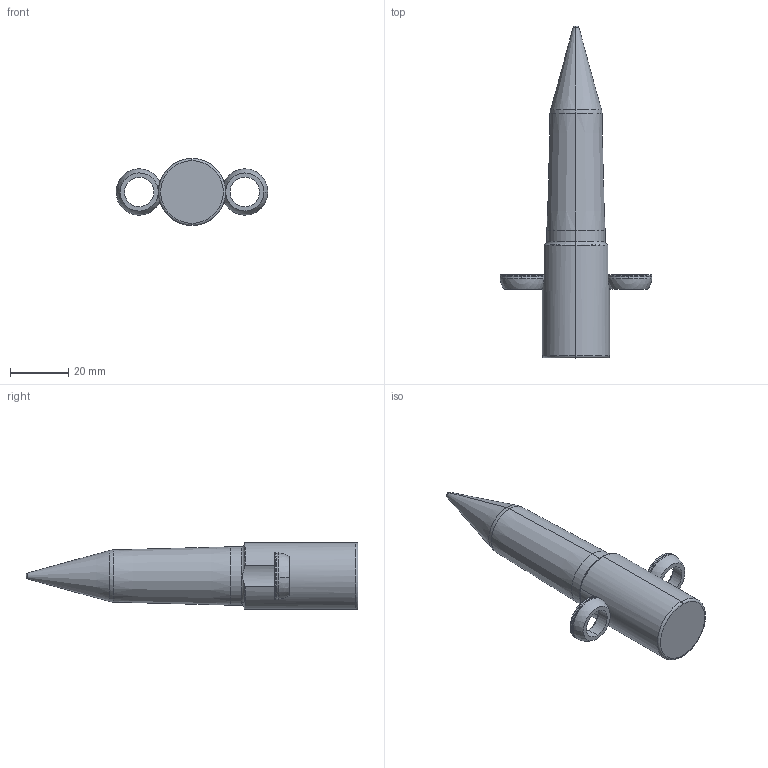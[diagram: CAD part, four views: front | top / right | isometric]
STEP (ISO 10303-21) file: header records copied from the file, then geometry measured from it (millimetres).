
FILE_DESCRIPTION (( 'STEP AP214' ), '1' );
FILE_NAME ('PA-T-20mm-3.8mm-40mm-3-A-F2.STEP', '2019-05-08T18:15:27', ( '' ), ( '' ), 'SwSTEP 2.0', 'SolidWorks 2017', '' );
FILE_SCHEMA (( 'AUTOMOTIVE_DESIGN' ));
Length unit declared in the file: inch
Products named in the file (3): SLPilot-PA-T-M_PA-T-20-3.8-40-3-A-F2; SLRadiusWasher_RadiusWasher-M; PA-T-20mm-3.8mm-40mm-3-A-F2
Assembly tree (3 placements, depth 2):
  PA-T-20mm-3.8mm-40mm-3-A-F2
    SLRadiusWasher_RadiusWasher-M  x2
    SLPilot-PA-T-M_PA-T-20-3.8-40-3-A-F2
Bounding box: 52.08 x 113.81 x 23 mm (x, y, z)
Volume: 32680.5 mm3; surface area: 8070.6 mm2
Topology: 3 solids, 3 shells, 61 faces, 136 edges, 81 vertices
Faces by surface type: torus 19, cylinder 18, cone 8, sphere 8, plane 8
Entity records: 1569 total; most frequent: CARTESIAN_POINT 348, DIRECTION 266, ORIENTED_EDGE 204, AXIS2_PLACEMENT_3D 123, EDGE_CURVE 102, CIRCLE 72, VERTEX_POINT 61, EDGE_LOOP 47
